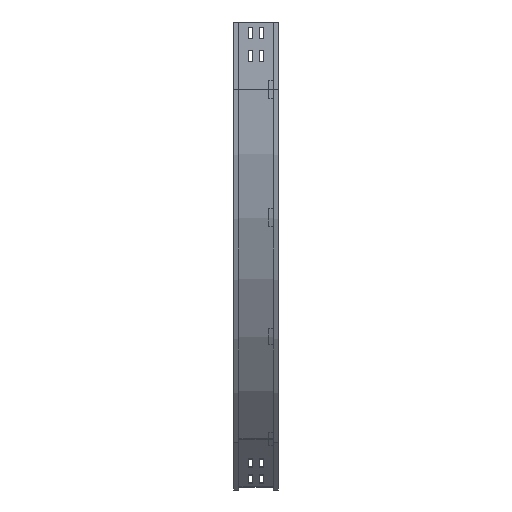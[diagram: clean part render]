
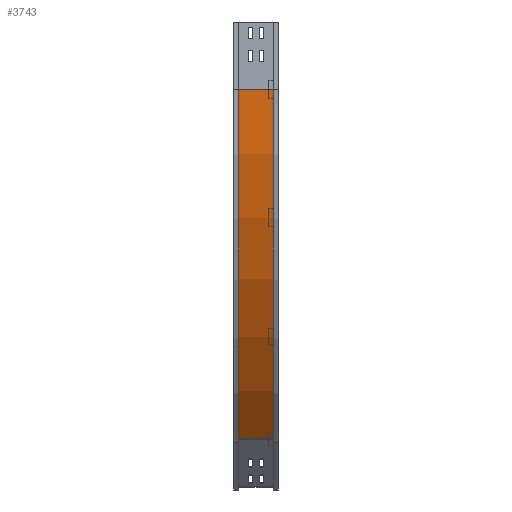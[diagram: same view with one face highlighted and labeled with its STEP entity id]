
A CAD part, left-side view. The second image highlights one B-rep face of the part: STEP entity #3743.
In plain terms, the highlighted cylindrical face has radius 1100 mm (diameter 2200 mm), a partial arc.
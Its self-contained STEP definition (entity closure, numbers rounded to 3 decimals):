
#13 = CIRCLE ( 'NONE', #449, 1100. ) ;
#39 = AXIS2_PLACEMENT_3D ( 'NONE', #408, #1100, #3541 ) ;
#54 = DIRECTION ( 'NONE',  ( 0., -1., 0. ) ) ;
#62 = EDGE_CURVE ( 'NONE', #421, #3559, #1194, .T. ) ;
#128 = ORIENTED_EDGE ( 'NONE', *, *, #1716, .F. ) ;
#147 = CARTESIAN_POINT ( 'NONE',  ( 9., 12., -150. ) ) ;
#408 = CARTESIAN_POINT ( 'NONE',  ( 1109., 0., -150. ) ) ;
#421 = VERTEX_POINT ( 'NONE', #2719 ) ;
#425 = VERTEX_POINT ( 'NONE', #642 ) ;
#449 = AXIS2_PLACEMENT_3D ( 'NONE', #3503, #54, #4204 ) ;
#642 = CARTESIAN_POINT ( 'NONE',  ( 331.183, 12., -927.817 ) ) ;
#684 = VECTOR ( 'NONE', #3474, 1000. ) ;
#745 = LINE ( 'NONE', #3178, #684 ) ;
#1038 = ORIENTED_EDGE ( 'NONE', *, *, #1244, .F. ) ;
#1100 = DIRECTION ( 'NONE',  ( 0., -1., 0. ) ) ;
#1194 = CIRCLE ( 'NONE', #3730, 1100. ) ;
#1244 = EDGE_CURVE ( 'NONE', #421, #1477, #1334, .T. ) ;
#1334 = LINE ( 'NONE', #1357, #2490 ) ;
#1357 = CARTESIAN_POINT ( 'NONE',  ( 9., 12., -150. ) ) ;
#1389 = CARTESIAN_POINT ( 'NONE',  ( 331.183, 88., -927.817 ) ) ;
#1430 = CARTESIAN_POINT ( 'NONE',  ( 1109., 88., -150. ) ) ;
#1477 = VERTEX_POINT ( 'NONE', #147 ) ;
#1716 = EDGE_CURVE ( 'NONE', #1477, #425, #13, .T. ) ;
#1742 = DIRECTION ( 'NONE',  ( 0., -1., 0. ) ) ;
#2148 = DIRECTION ( 'NONE',  ( -1., 0., 0. ) ) ;
#2490 = VECTOR ( 'NONE', #1742, 1000. ) ;
#2499 = FACE_OUTER_BOUND ( 'NONE', #2908, .T. ) ;
#2719 = CARTESIAN_POINT ( 'NONE',  ( 9., 88., -150. ) ) ;
#2908 = EDGE_LOOP ( 'NONE', ( #128, #1038, #3936, #4278 ) ) ;
#3178 = CARTESIAN_POINT ( 'NONE',  ( 331.183, 12., -927.817 ) ) ;
#3474 = DIRECTION ( 'NONE',  ( 0., -1., 0. ) ) ;
#3503 = CARTESIAN_POINT ( 'NONE',  ( 1109., 12., -150. ) ) ;
#3541 = DIRECTION ( 'NONE',  ( 0., 0., -1. ) ) ;
#3559 = VERTEX_POINT ( 'NONE', #1389 ) ;
#3687 = EDGE_CURVE ( 'NONE', #3559, #425, #745, .T. ) ;
#3730 = AXIS2_PLACEMENT_3D ( 'NONE', #1430, #4486, #2148 ) ;
#3743 = ADVANCED_FACE ( 'NONE', ( #2499 ), #4216, .T. ) ;
#3936 = ORIENTED_EDGE ( 'NONE', *, *, #62, .T. ) ;
#4204 = DIRECTION ( 'NONE',  ( -1., 0., 0. ) ) ;
#4216 = CYLINDRICAL_SURFACE ( 'NONE', #39, 1100. ) ;
#4278 = ORIENTED_EDGE ( 'NONE', *, *, #3687, .T. ) ;
#4486 = DIRECTION ( 'NONE',  ( 0., -1., 0. ) ) ;
